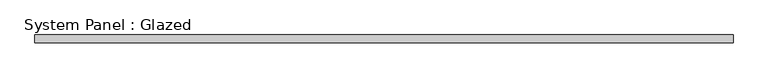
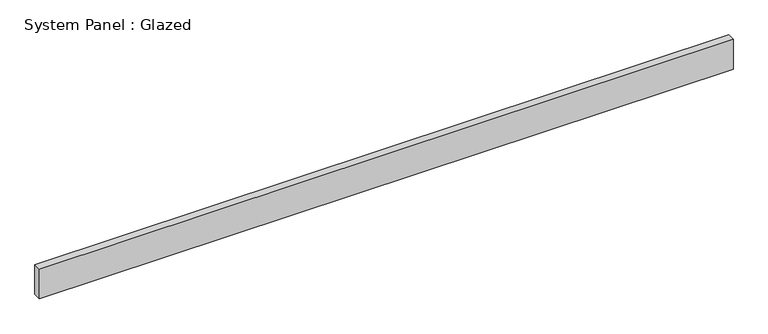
"""IFC4 building model written with IfcOpenShell, lengths in millimetres: plate geometry, System Panel : Glazed."""

import ifcopenshell
import ifcopenshell.guid

model = None  # the IFC model being written
_history = None  # IfcOwnerHistory: only IFC2X3 demands one
_inside = {}  # id of a spatial element -> (the spatial element, [elements in it])
_under = {}  # id of a project, library or spatial element -> (it, [spatial elements below it])
_declared = {}  # id of a project -> (the project, [libraries it declares])
_typed = {}  # id of a type object -> (the type object, [elements of that type])
_made_of = {}  # id of a material, layer set ... -> (it, [elements and type objects made of it])


def new_model(schema):
    """Start an empty IFC model of exactly this schema.

    Asked for "IFC4X3", IfcOpenShell would pick the latest addendum, in which some entities
    have other attributes; the version numbers below select the first issue.
    IFC2X3 requires an IfcOwnerHistory on every rooted entity: one is made here for all.
    """
    global model, _history
    if schema == "IFC4X3":
        model = ifcopenshell.file(schema_version=(4, 3, 0, 0))
    else:
        model = ifcopenshell.file(schema=schema)
    _inside.clear()
    _under.clear()
    _declared.clear()
    _typed.clear()
    _made_of.clear()
    _history = None
    if model.schema == "IFC2X3":
        org = make("IfcOrganization", Name="unknown")
        user = make(
            "IfcPersonAndOrganization",
            ThePerson=make("IfcPerson", FamilyName="unknown"),
            TheOrganization=org,
        )
        app = make(
            "IfcApplication",
            ApplicationDeveloper=org,
            Version="unknown",
            ApplicationFullName="unknown",
            ApplicationIdentifier="unknown",
        )
        _history = make(
            "IfcOwnerHistory",
            OwningUser=user,
            OwningApplication=app,
            ChangeAction="ADDED",
            CreationDate=0,
        )
    return model


def make(cls, **values):
    """One entity of the class cls with the attributes given. An attribute that is None is left unset."""
    return model.create_entity(
        cls, **{name: value for name, value in values.items() if value is not None}
    )


def rooted(cls, **values):
    """An entity with a GlobalId (a new one), such as an element, a storey or a relation."""
    return make(cls, GlobalId=ifcopenshell.guid.new(), OwnerHistory=_history, **values)


def si_unit(unit_type, name, prefix=None):
    """IfcSIUnit, for example si_unit("LENGTHUNIT", "METRE", prefix="MILLI")."""
    return make("IfcSIUnit", UnitType=unit_type, Prefix=prefix, Name=name)


def assignment(units):
    """IfcUnitAssignment: the units of a project."""
    return None if units is None else make("IfcUnitAssignment", Units=units)


def point(xyz):
    """IfcCartesianPoint."""
    return None if xyz is None else make("IfcCartesianPoint", Coordinates=xyz)


def direction(xyz):
    """IfcDirection."""
    return None if xyz is None else make("IfcDirection", DirectionRatios=xyz)


def frame(location, z_axis=None, x_axis=None):
    """IfcAxis2Placement3D, a coordinate frame: its origin and axes. An axis left out is left unset."""
    return make(
        "IfcAxis2Placement3D",
        Location=point(location),
        Axis=direction(z_axis),
        RefDirection=direction(x_axis),
    )


def origin():
    """The frame at (0, 0, 0) with its axes left unset."""
    return frame((0.0, 0.0, 0.0))


def origin_with_axes():
    """The frame at (0, 0, 0) with the z axis (0, 0, 1) and the x axis (1, 0, 0) written out."""
    return frame((0.0, 0.0, 0.0), z_axis=(0.0, 0.0, 1.0), x_axis=(1.0, 0.0, 0.0))


def place(relative_to, where):
    """IfcLocalPlacement: puts the frame where relative to a parent placement (None: the world)."""
    return make(
        "IfcLocalPlacement", PlacementRelTo=relative_to, RelativePlacement=where
    )


def context(
    kind, dimensions, precision=None, world=None, true_north=None, identifier=None
):
    """IfcGeometricRepresentationContext, for example the 3D "Model" context."""
    return make(
        "IfcGeometricRepresentationContext",
        ContextIdentifier=identifier,
        ContextType=kind,
        CoordinateSpaceDimension=dimensions,
        Precision=precision,
        WorldCoordinateSystem=world,
        TrueNorth=true_north,
    )


def project(units=None, contexts=None):
    """IfcProject with its units and contexts."""
    return rooted(
        "IfcProject",
        Name="project",
        RepresentationContexts=contexts,
        UnitsInContext=assignment(units),
    )


def spatial(cls, under=None, at=None, **own):
    """A site, building, storey or space (cls), placed at a placement, below another one or the project."""
    s = rooted(cls, ObjectPlacement=at, **own)
    if under is not None:
        _under.setdefault(under.id(), (under, []))[1].append(s)
    return s


def polyline(points):
    """IfcPolyline through the points."""
    return make("IfcPolyline", Points=[point(p) for p in points])


def outline(outer, holes=None, kind="AREA"):
    """IfcArbitraryClosedProfileDef: a profile drawn as a closed curve; with holes, ...WithVoids."""
    if holes is None:
        return make("IfcArbitraryClosedProfileDef", ProfileType=kind, OuterCurve=outer)
    return make(
        "IfcArbitraryProfileDefWithVoids",
        ProfileType=kind,
        OuterCurve=outer,
        InnerCurves=holes,
    )


def extrude(swept, where, along, depth):
    """IfcExtrudedAreaSolid: the profile swept, set in the frame where, extruded along a direction by depth."""
    return make(
        "IfcExtrudedAreaSolid",
        SweptArea=swept,
        Position=where,
        ExtrudedDirection=direction(along),
        Depth=depth,
    )


def shape(context_of_items, identifier, shape_type, items):
    """IfcShapeRepresentation: the items that make up one representation, for example the "Body"."""
    return make(
        "IfcShapeRepresentation",
        ContextOfItems=context_of_items,
        RepresentationIdentifier=identifier,
        RepresentationType=shape_type,
        Items=items,
    )


def source(mapping_origin, context_of_items, identifier, shape_type, items):
    """IfcRepresentationMap: a shape defined once, which mapped items show again and again."""
    return make(
        "IfcRepresentationMap",
        MappingOrigin=mapping_origin,
        MappedRepresentation=shape(context_of_items, identifier, shape_type, items),
    )


def transform(
    local_origin,
    x_axis=None,
    y_axis=None,
    z_axis=None,
    scale=None,
    scale2=None,
    scale3=None,
    uniform=True,
):
    """IfcCartesianTransformationOperator3D, or its non-uniform kind. x_axis, y_axis, z_axis: its Axis1, 2, 3."""
    if uniform:
        return make(
            "IfcCartesianTransformationOperator3D",
            Axis1=direction(x_axis),
            Axis2=direction(y_axis),
            LocalOrigin=point(local_origin),
            Scale=scale,
            Axis3=direction(z_axis),
        )
    return make(
        "IfcCartesianTransformationOperator3DnonUniform",
        Axis1=direction(x_axis),
        Axis2=direction(y_axis),
        LocalOrigin=point(local_origin),
        Scale=scale,
        Axis3=direction(z_axis),
        Scale2=scale2,
        Scale3=scale3,
    )


def mapped(mapping_source, mapping_target):
    """IfcMappedItem: shows the shape of a source again, moved by a transform."""
    return make(
        "IfcMappedItem", MappingSource=mapping_source, MappingTarget=mapping_target
    )


def made_of(thing, what):
    """Note that an element or type object is made of a material, layer set ...; save() writes the relation."""
    if what is not None:
        _made_of.setdefault(what.id(), (what, []))[1].append(thing)
    return thing


def element(
    cls,
    number,
    at=None,
    inside=None,
    cuts=None,
    type_object=None,
    material=None,
    context=None,
    identifier="Body",
    shape_type=None,
    held_by="IfcProductDefinitionShape",
    body=None,
    shapes=None,
    **own,
):
    """One element of the class cls, such as IfcWall. Its Tag is "e" and its number.

    at: its placement. inside: the storey or other place that contains it. cuts: it is an
    opening in that element (IfcRelVoidsElement). A single representation is given by context,
    identifier, shape_type and body (its items); several are given by shapes. held_by: the class
    of the entity that holds the representations. save() writes the other relations.
    """
    e = rooted(cls, Tag="e%d" % number, ObjectPlacement=at, **own)
    if body is not None:
        shapes = [shape(context, identifier, shape_type, body)]
    if shapes is not None:
        e.Representation = make(held_by, Representations=shapes)
    if inside is not None:
        _inside.setdefault(inside.id(), (inside, []))[1].append(e)
    if cuts is not None:
        rooted(
            "IfcRelVoidsElement", RelatingBuildingElement=cuts, RelatedOpeningElement=e
        )
    if type_object is not None:
        _typed.setdefault(type_object.id(), (type_object, []))[1].append(e)
    return made_of(e, material)


def aggregate(whole, parts):
    """IfcRelAggregates: a whole, such as a stair, and the parts it consists of."""
    return rooted("IfcRelAggregates", RelatingObject=whole, RelatedObjects=parts)


def save(model, path):
    """Write the relations noted so far, then the file.

    IfcRelAggregates (storeys below a building ...), IfcRelContainedInSpatialStructure (elements
    in a storey), IfcRelDefinesByType, IfcRelAssociatesMaterial and IfcRelDeclares: one each for
    every whole, place, type object, material and project.
    """
    for whole, parts in _under.values():
        aggregate(whole, parts)
    for where, things in _inside.values():
        rooted(
            "IfcRelContainedInSpatialStructure",
            RelatedElements=things,
            RelatingStructure=where,
        )
    for kind, things in _typed.values():
        rooted("IfcRelDefinesByType", RelatedObjects=things, RelatingType=kind)
    for what, things in _made_of.values():
        rooted("IfcRelAssociatesMaterial", RelatedObjects=things, RelatingMaterial=what)
    for by, libraries in _declared.values():
        rooted("IfcRelDeclares", RelatingContext=by, RelatedDefinitions=libraries)
    model.write(path)


def system_panel_glazed_1a46cd8e(model_context):
    return source(origin(), model_context, "Body", "SweptSolid", [
        extrude(outline(polyline([(1500.0, -17.0), (-1500.0, -17.0), (-1500.0, 17.0), (1500.0, 17.0), (1500.0, -17.0)])), origin_with_axes(), (0.0, 0.0, 1.0), 136.3807988),
    ])


if __name__ == "__main__":
    model = new_model("IFC4")
    model_context = context("Model", 3, world=origin())
    ifc_project = project(units=[si_unit("LENGTHUNIT", "METRE", prefix="MILLI")], contexts=[model_context])
    site = spatial("IfcSite", under=ifc_project)
    building = spatial("IfcBuilding", under=site)
    placement = place(None, origin())
    system_panel_glazed_shape = system_panel_glazed_1a46cd8e(model_context)
    element("IfcPlate", 1, ObjectType="System Panel : Glazed", at=placement, inside=building, context=model_context, shape_type="MappedRepresentation", body=[
        mapped(system_panel_glazed_shape, transform((0.0, 0.0, 0.0), x_axis=(1.0, 0.0, 0.0), y_axis=(0.0, 1.0, 0.0), z_axis=(0.0, 0.0, 1.0))),
    ])
    save(model, "model.ifc")
